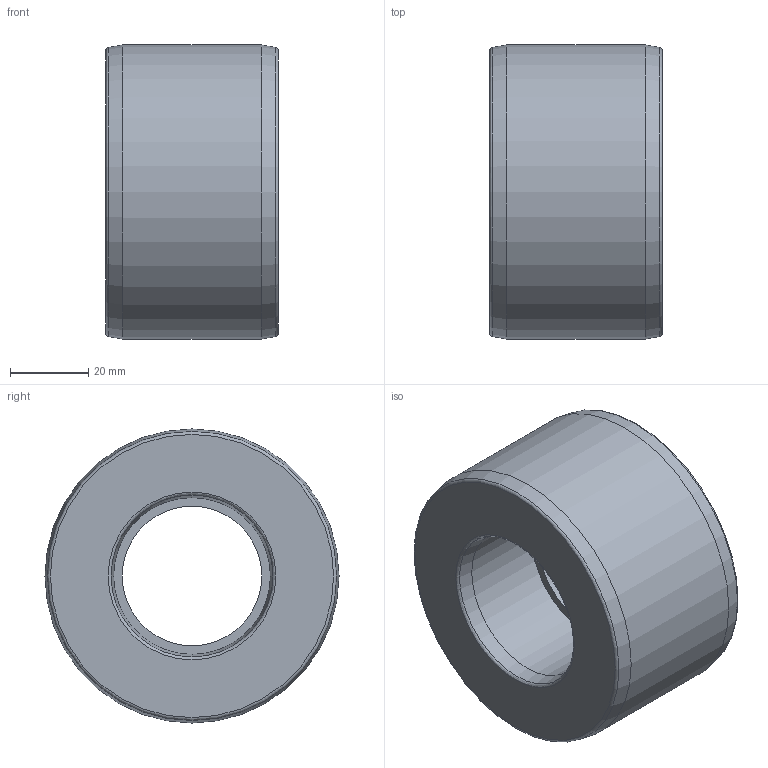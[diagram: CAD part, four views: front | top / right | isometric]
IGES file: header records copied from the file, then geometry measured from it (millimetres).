
Global section: file name: 050900075040.ipt; native system: Autodesk Inventor 2015; preprocessor: unknown; author: KIM; date: 20171207.165116; units: millimetre
Bounding box: 44 x 75 x 75 mm (x, y, z)
Volume: 135479.4 mm3; surface area: 21487.5 mm2
Topology: 1 solids, 1 shells, 15 faces, 43 edges, 31 vertices
Faces by surface type: revolution 9, plane 3, cone 2, cylinder 1
Full cylindrical faces by diameter (mm): 75 x1
